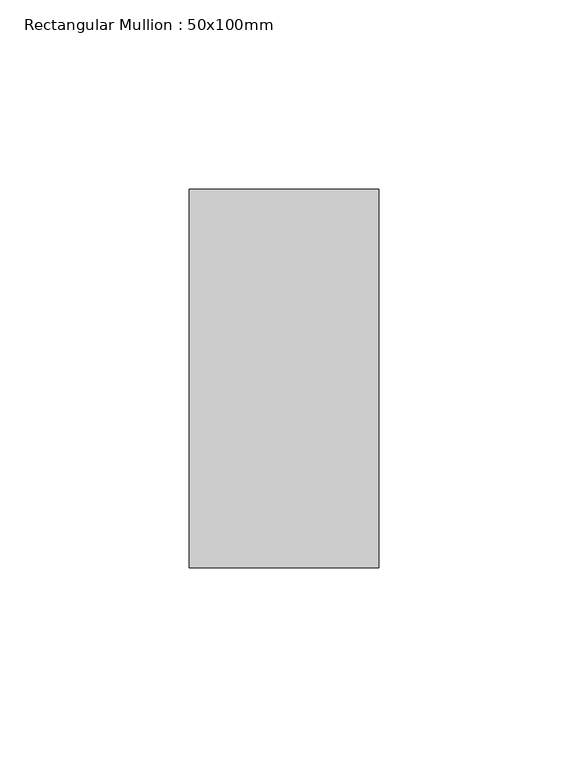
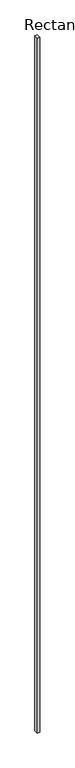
"""IFC4 building model written with IfcOpenShell, lengths in millimetres: member geometry, Rectangular Mullion : 50x100mm."""

from ifc_helpers import new_model, si_unit, frame, origin, place, context, project, spatial, polyline, outline, extrude, source, transform, mapped, element, save


def rectangular_mullion_50x100mm_888fe5d5(model_context):
    return source(origin(), model_context, "Body", "SweptSolid", [
        extrude(outline(polyline([(25.0, 50.0), (25.0, -50.0), (-25.0, -50.0), (-25.0, 50.0), (25.0, 50.0)])), frame((0.0, 0.0, -16380.0), z_axis=(0.0, 0.0, 1.0), x_axis=(1.0, 0.0, 0.0)), (0.0, 0.0, 1.0), 16380.0),
    ])


if __name__ == "__main__":
    model = new_model("IFC4")
    model_context = context("Model", 3, world=origin())
    ifc_project = project(units=[si_unit("LENGTHUNIT", "METRE", prefix="MILLI")], contexts=[model_context])
    site = spatial("IfcSite", under=ifc_project)
    building = spatial("IfcBuilding", under=site)
    placement = place(None, origin())
    rectangular_mullion_50x100mm_shape = rectangular_mullion_50x100mm_888fe5d5(model_context)
    element("IfcMember", 1, ObjectType="Rectangular Mullion : 50x100mm", at=placement, inside=building, context=model_context, shape_type="MappedRepresentation", body=[
        mapped(rectangular_mullion_50x100mm_shape, transform((0.0, 0.0, 0.0), x_axis=(1.0, 0.0, 0.0), y_axis=(0.0, 1.0, 0.0), z_axis=(0.0, 0.0, 1.0))),
    ])
    save(model, "model.ifc")
